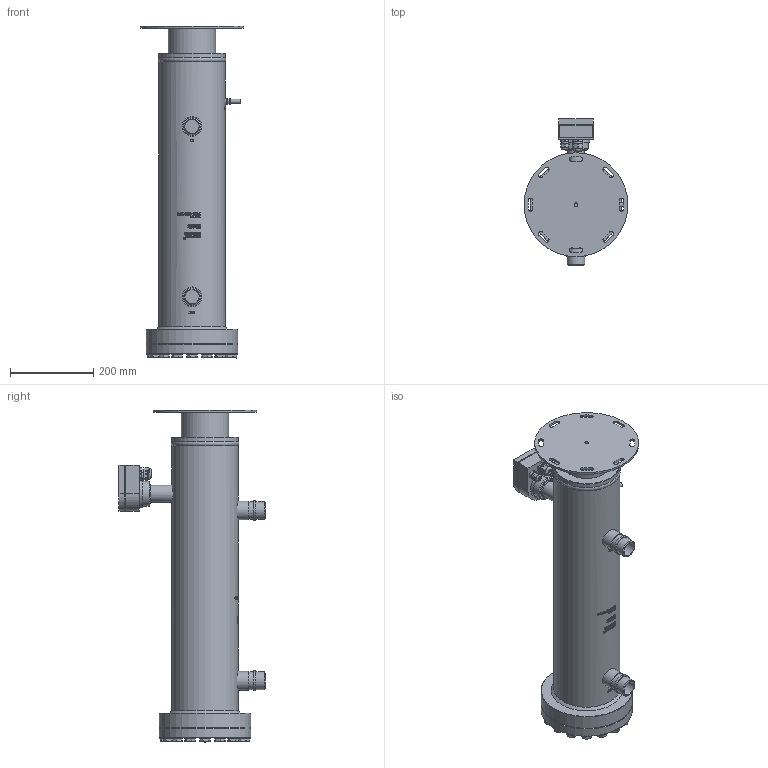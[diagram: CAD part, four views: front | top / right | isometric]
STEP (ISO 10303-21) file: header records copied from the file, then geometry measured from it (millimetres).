
FILE_DESCRIPTION(/* description */ (''),/* implementation_level */ '2;1');
FILE_NAME(/* name */ 'C:\Users\husser\Desktop\BOS4-CDH-1BFO_AG-Kunde.stp',/* time_stamp */ '2024-02-19T09:10:40+01:00',/* author */ ('Husser'),/* organization */ (''),/* preprocessor_version */ 'ST-DEVELOPER v18.1',/* originating_system */ 'Autodesk Inventor 2021',/* authorisation */ '');
FILE_SCHEMA (('AUTOMOTIVE_DESIGN { 1 0 10303 214 3 1 1 }'));
Products named in the file (1): BOS4-CDH-1BFO_AG-Kunde
Bounding box: 250 x 351.5 x 798.8 mm (x, y, z)
Volume: 16327361 mm3; surface area: 726259.8 mm2
Topology: 1 solids, 32 shells, 1932 faces, 4910 edges, 3219 vertices
Faces by surface type: plane 832, bspline 619, cylinder 319, cone 143, torus 19
Full cylindrical faces by diameter (mm): 3.242 x3, 6 x6, 6.2 x1, 7 x3, 8.376 x1, 10 x3, 12.917 x16, 13.5 x1, 14 x1, 15 x17, 16 x2, 20 x2, 20.1 x16, 27.48 x1, 28 x16, 34.4 x2, 35.2 x2, 41 x1, 42.4 x4, 45 x2, 47.6 x2, 60 x1, 60.4 x1, 66 x1, 105.3 x1, 114.3 x1, 159 x2, 214 x1, 220 x2, 250 x1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
Entity records: 73188 total; most frequent: CARTESIAN_POINT 29800, ORIENTED_EDGE 9802, DIRECTION 7018, EDGE_CURVE 4901, VERTEX_POINT 3219, AXIS2_PLACEMENT_3D 2388, LINE 2242, VECTOR 2242
